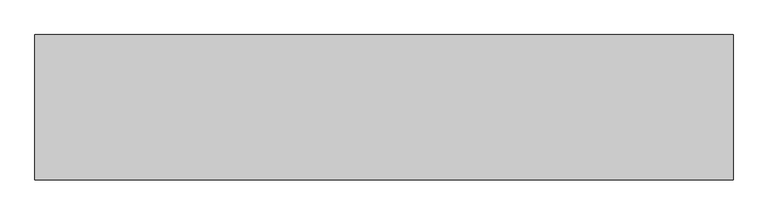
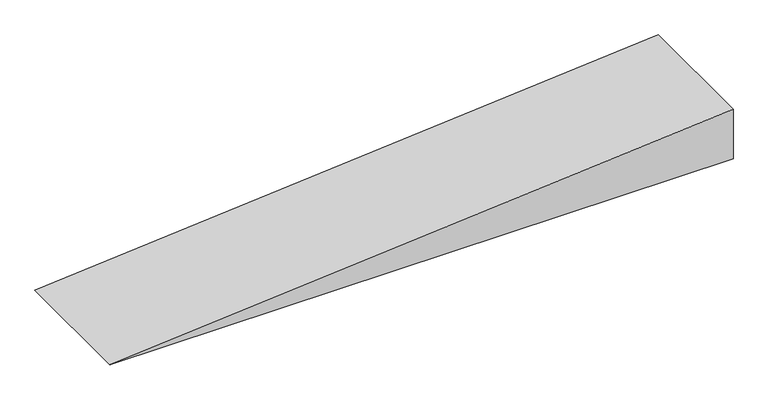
"""IFC4 building model written with IfcOpenShell, lengths in millimetres: ramp geometry, 8.33% sólida."""

from ifc_helpers import new_model, si_unit, frame, origin, place, context, project, spatial, polyline, outline, extrude, source, transform, mapped, element, save


def ramp_92b61bd4(model_context):
    return source(origin(), model_context, "Body", "SweptSolid", [
        extrude(outline(polyline([(0.0, -1767.3834094), (-600.0, -8967.3834094), (-600.0, -1767.3834094), (0.0, -1767.3834094)])), frame((0.0, -11117.0637549, 0.0), z_axis=(0.0, 1.0, 0.0), x_axis=(0.0, 0.0, 1.0)), (0.0, 0.0, 1.0), 1500.0),
    ])


if __name__ == "__main__":
    model = new_model("IFC4")
    model_context = context("Model", 3, world=origin())
    ifc_project = project(units=[si_unit("LENGTHUNIT", "METRE", prefix="MILLI")], contexts=[model_context])
    site = spatial("IfcSite", under=ifc_project)
    building = spatial("IfcBuilding", under=site)
    placement = place(None, origin())
    ramp_shape = ramp_92b61bd4(model_context)
    element("IfcRamp", 1, ObjectType="8.33% sólida", at=placement, inside=building, context=model_context, shape_type="MappedRepresentation", body=[
        mapped(ramp_shape, transform((0.0, 0.0, 0.0), x_axis=(1.0, 0.0, 0.0), y_axis=(0.0, 1.0, 0.0), z_axis=(0.0, 0.0, 1.0))),
    ])
    save(model, "model.ifc")
